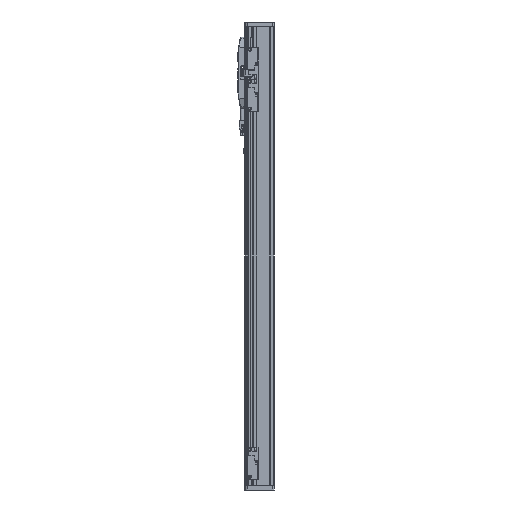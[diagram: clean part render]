
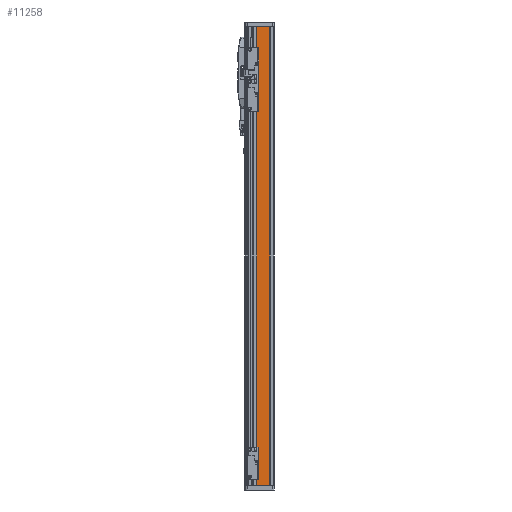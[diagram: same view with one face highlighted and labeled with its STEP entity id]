
A CAD part, left-side view. The second image highlights one B-rep face of the part: STEP entity #11258.
In plain terms, the highlighted planar face has unit normal (-1, 0, 0).
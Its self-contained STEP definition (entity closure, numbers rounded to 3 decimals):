
#152 = PLANE('',#153);
#153 = AXIS2_PLACEMENT_3D('',#154,#155,#156);
#154 = CARTESIAN_POINT('',(0.,0.,375.));
#155 = DIRECTION('',(-0.,0.,1.));
#156 = DIRECTION('',(1.,0.,0.));
#993 = PLANE('',#994);
#994 = AXIS2_PLACEMENT_3D('',#995,#996,#997);
#995 = CARTESIAN_POINT('',(0.,0.,-375.));
#996 = DIRECTION('',(-0.,0.,1.));
#997 = DIRECTION('',(1.,0.,0.));
#5797 = PLANE('',#5798);
#5798 = AXIS2_PLACEMENT_3D('',#5799,#5800,#5801);
#5799 = CARTESIAN_POINT('',(-27.5,-17.,370.));
#5800 = DIRECTION('',(-0.707,0.707,0.));
#5801 = DIRECTION('',(0.,0.,1.));
#6199 = VERTEX_POINT('',#6200);
#6200 = CARTESIAN_POINT('',(-27.1,4.6,375.));
#6214 = PLANE('',#6215);
#6215 = AXIS2_PLACEMENT_3D('',#6216,#6217,#6218);
#6216 = CARTESIAN_POINT('',(-27.1,4.6,370.));
#6217 = DIRECTION('',(-0.707,-0.707,0.));
#6218 = DIRECTION('',(0.,0.,1.));
#6226 = EDGE_CURVE('',#6199,#6227,#6229,.T.);
#6227 = VERTEX_POINT('',#6228);
#6228 = CARTESIAN_POINT('',(-27.1,-16.6,375.));
#6229 = SURFACE_CURVE('',#6230,(#6234,#6241),.PCURVE_S1.);
#6230 = LINE('',#6231,#6232);
#6231 = CARTESIAN_POINT('',(-27.1,8.,375.));
#6232 = VECTOR('',#6233,1.);
#6233 = DIRECTION('',(0.,-1.,0.));
#6234 = PCURVE('',#152,#6235);
#6235 = DEFINITIONAL_REPRESENTATION('',(#6236),#6240);
#6236 = LINE('',#6237,#6238);
#6237 = CARTESIAN_POINT('',(-27.1,8.));
#6238 = VECTOR('',#6239,1.);
#6239 = DIRECTION('',(0.,-1.));
#6240 = ( GEOMETRIC_REPRESENTATION_CONTEXT(2) 
PARAMETRIC_REPRESENTATION_CONTEXT() REPRESENTATION_CONTEXT('2D SPACE',''
  ) );
#6241 = PCURVE('',#6242,#6247);
#6242 = PLANE('',#6243);
#6243 = AXIS2_PLACEMENT_3D('',#6244,#6245,#6246);
#6244 = CARTESIAN_POINT('',(-27.1,8.,370.));
#6245 = DIRECTION('',(1.,0.,0.));
#6246 = DIRECTION('',(0.,1.,0.));
#6247 = DEFINITIONAL_REPRESENTATION('',(#6248),#6252);
#6248 = LINE('',#6249,#6250);
#6249 = CARTESIAN_POINT('',(0.,5.));
#6250 = VECTOR('',#6251,1.);
#6251 = DIRECTION('',(-1.,0.));
#6252 = ( GEOMETRIC_REPRESENTATION_CONTEXT(2) 
PARAMETRIC_REPRESENTATION_CONTEXT() REPRESENTATION_CONTEXT('2D SPACE',''
  ) );
#7266 = VERTEX_POINT('',#7267);
#7267 = CARTESIAN_POINT('',(-27.1,-16.6,-375.));
#7288 = EDGE_CURVE('',#7266,#7289,#7291,.T.);
#7289 = VERTEX_POINT('',#7290);
#7290 = CARTESIAN_POINT('',(-27.1,4.6,-375.));
#7291 = SURFACE_CURVE('',#7292,(#7296,#7303),.PCURVE_S1.);
#7292 = LINE('',#7293,#7294);
#7293 = CARTESIAN_POINT('',(-27.1,0.,-375.));
#7294 = VECTOR('',#7295,1.);
#7295 = DIRECTION('',(0.,1.,0.));
#7296 = PCURVE('',#993,#7297);
#7297 = DEFINITIONAL_REPRESENTATION('',(#7298),#7302);
#7298 = LINE('',#7299,#7300);
#7299 = CARTESIAN_POINT('',(-27.1,0.));
#7300 = VECTOR('',#7301,1.);
#7301 = DIRECTION('',(0.,1.));
#7302 = ( GEOMETRIC_REPRESENTATION_CONTEXT(2) 
PARAMETRIC_REPRESENTATION_CONTEXT() REPRESENTATION_CONTEXT('2D SPACE',''
  ) );
#7303 = PCURVE('',#6242,#7304);
#7304 = DEFINITIONAL_REPRESENTATION('',(#7305),#7309);
#7305 = LINE('',#7306,#7307);
#7306 = CARTESIAN_POINT('',(-8.,-745.));
#7307 = VECTOR('',#7308,1.);
#7308 = DIRECTION('',(1.,0.));
#7309 = ( GEOMETRIC_REPRESENTATION_CONTEXT(2) 
PARAMETRIC_REPRESENTATION_CONTEXT() REPRESENTATION_CONTEXT('2D SPACE',''
  ) );
#11258 = ADVANCED_FACE('',(#11259),#6242,.F.);
#11259 = FACE_BOUND('',#11260,.T.);
#11260 = EDGE_LOOP('',(#11261,#11262,#11283,#11284));
#11261 = ORIENTED_EDGE('',*,*,#6226,.F.);
#11262 = ORIENTED_EDGE('',*,*,#11263,.T.);
#11263 = EDGE_CURVE('',#6199,#7289,#11264,.T.);
#11264 = SURFACE_CURVE('',#11265,(#11269,#11276),.PCURVE_S1.);
#11265 = LINE('',#11266,#11267);
#11266 = CARTESIAN_POINT('',(-27.1,4.6,-370.));
#11267 = VECTOR('',#11268,1.);
#11268 = DIRECTION('',(0.,0.,-1.));
#11269 = PCURVE('',#6242,#11270);
#11270 = DEFINITIONAL_REPRESENTATION('',(#11271),#11275);
#11271 = LINE('',#11272,#11273);
#11272 = CARTESIAN_POINT('',(-3.4,-740.));
#11273 = VECTOR('',#11274,1.);
#11274 = DIRECTION('',(0.,-1.));
#11275 = ( GEOMETRIC_REPRESENTATION_CONTEXT(2) 
PARAMETRIC_REPRESENTATION_CONTEXT() REPRESENTATION_CONTEXT('2D SPACE',''
  ) );
#11276 = PCURVE('',#6214,#11277);
#11277 = DEFINITIONAL_REPRESENTATION('',(#11278),#11282);
#11278 = LINE('',#11279,#11280);
#11279 = CARTESIAN_POINT('',(-740.,0.));
#11280 = VECTOR('',#11281,1.);
#11281 = DIRECTION('',(-1.,0.));
#11282 = ( GEOMETRIC_REPRESENTATION_CONTEXT(2) 
PARAMETRIC_REPRESENTATION_CONTEXT() REPRESENTATION_CONTEXT('2D SPACE',''
  ) );
#11283 = ORIENTED_EDGE('',*,*,#7288,.F.);
#11284 = ORIENTED_EDGE('',*,*,#11285,.T.);
#11285 = EDGE_CURVE('',#7266,#6227,#11286,.T.);
#11286 = SURFACE_CURVE('',#11287,(#11291,#11298),.PCURVE_S1.);
#11287 = LINE('',#11288,#11289);
#11288 = CARTESIAN_POINT('',(-27.1,-16.6,370.));
#11289 = VECTOR('',#11290,1.);
#11290 = DIRECTION('',(0.,0.,1.));
#11291 = PCURVE('',#6242,#11292);
#11292 = DEFINITIONAL_REPRESENTATION('',(#11293),#11297);
#11293 = LINE('',#11294,#11295);
#11294 = CARTESIAN_POINT('',(-24.6,0.));
#11295 = VECTOR('',#11296,1.);
#11296 = DIRECTION('',(0.,1.));
#11297 = ( GEOMETRIC_REPRESENTATION_CONTEXT(2) 
PARAMETRIC_REPRESENTATION_CONTEXT() REPRESENTATION_CONTEXT('2D SPACE',''
  ) );
#11298 = PCURVE('',#5797,#11299);
#11299 = DEFINITIONAL_REPRESENTATION('',(#11300),#11304);
#11300 = LINE('',#11301,#11302);
#11301 = CARTESIAN_POINT('',(0.,0.566));
#11302 = VECTOR('',#11303,1.);
#11303 = DIRECTION('',(1.,0.));
#11304 = ( GEOMETRIC_REPRESENTATION_CONTEXT(2) 
PARAMETRIC_REPRESENTATION_CONTEXT() REPRESENTATION_CONTEXT('2D SPACE',''
  ) );
